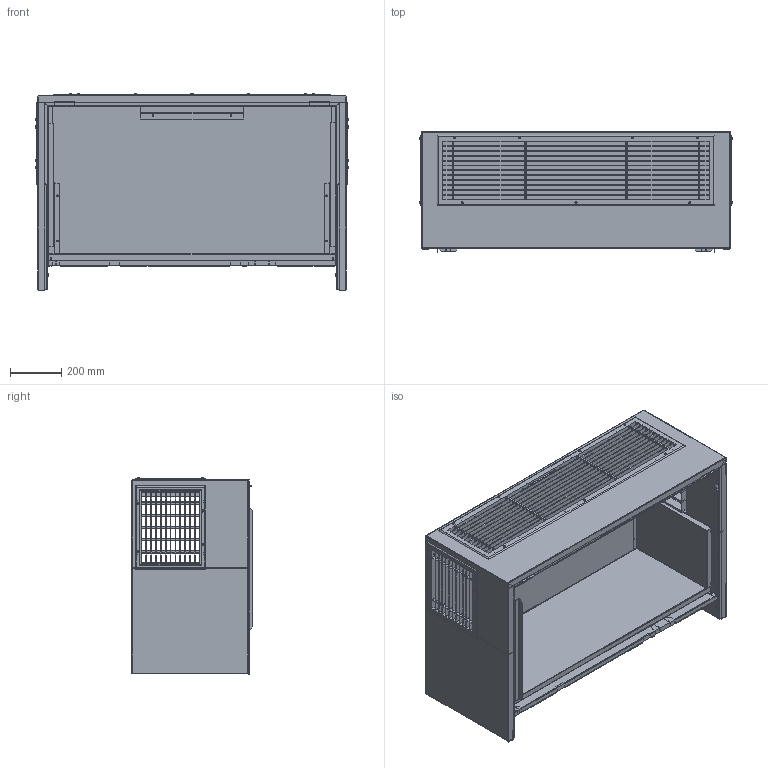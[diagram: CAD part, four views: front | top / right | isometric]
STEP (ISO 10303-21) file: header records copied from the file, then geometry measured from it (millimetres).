
FILE_DESCRIPTION (( 'STEP AP214' ), '1' );
FILE_NAME ('IPBDFH18 PLENUM BOX LINEAR SLOT.STEP', '2016-07-14T15:28:23', ( 'BMC' ), ( 'Bard Manufacturing Co., Inc.' ), 'SwSTEP 2.0', 'SolidWorks 2016', '' );
FILE_SCHEMA (( 'AUTOMOTIVE_DESIGN' ));
Length unit declared in the file: inch
Products named in the file (20): 7051-085; 7051-083; 134-336; 1012-066, panhead screw; 112-450; 1012-086; 134-335; 1913-011-2900; 134-334; 1913-011-4708_FLAT; 102-496; 5021-1719; 134-331; 106-325; 106-315; 136-699; 108-277; 114-234; 100-719; IPBDFH18 PLENUM BOX LINEAR SLOT
Assembly tree (48 placements, depth 2):
  IPBDFH18 PLENUM BOX LINEAR SLOT
    100-719  x2
    114-234
    108-277
    136-699  x2
    106-315
    106-325
    134-331
    102-496  x2
    134-334  x2
    134-335
    112-450  x2
    134-336  x2
    7051-083
    7051-085  x2
    5021-1719
    1913-011-4708_FLAT
    1913-011-2900  x2
    1012-086  x8
    1012-066, panhead screw  x15
Bounding box: 1227.36 x 475.79 x 770.79 mm (x, y, z)
Surface area: 12735286.3 mm2 (no closed solid volume)
Topology: 0 solids, 49 shells, 2586 faces, 7476 edges, 4667 vertices
Faces by surface type: plane 1791, cylinder 690, cone 46, bspline 44, sphere 15
Entity records: 57522 total; most frequent: CARTESIAN_POINT 12388, ORIENTED_EDGE 9424, DIRECTION 8792, EDGE_CURVE 4712, LINE 3748, VECTOR 3748, VERTEX_POINT 2974, AXIS2_PLACEMENT_3D 2522
